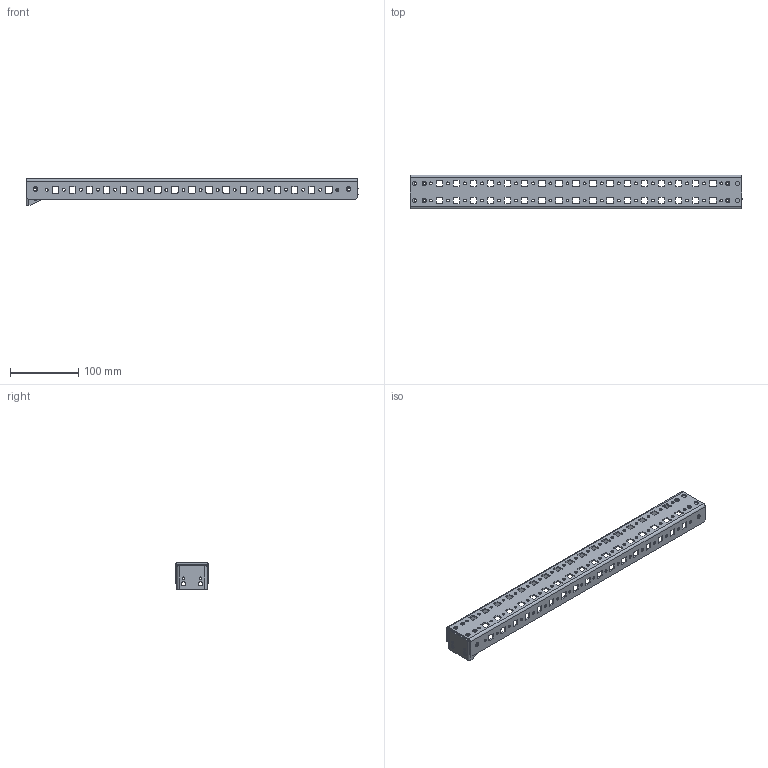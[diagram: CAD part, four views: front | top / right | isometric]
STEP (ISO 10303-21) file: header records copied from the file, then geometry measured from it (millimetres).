
FILE_DESCRIPTION(('STEP AP203'), '1');
FILE_NAME('MG 60.06 L Ðåéêà ìîíòàæíàÿ v2', '2021-05-20T09:09:55', ('UNSPECIFIED'), ('UNSPECIFIED'), 'ASCON STEP Converter 1.3', 'ASCON Math Kernel', '');
FILE_SCHEMA(('CONFIG_CONTROL_DESIGN'));
Length unit declared in the file: millimetre
Products named in the file (3): MG 60.06 L 01.001 Ðåéêà ìîíòàæíàÿ v2; MG 06 L 01.002 Êðîíøòåéí ðåéêè ìîíòàæíîé v2
Assembly tree (3 placements, depth 2):
  (unnamed)
    MG 60.06 L 01.001 Ðåéêà ìîíòàæíàÿ v2
    MG 06 L 01.002 Êðîíøòåéí ðåéêè ìîíòàæíîé v2  x2
Bounding box: 485.55 x 49.15 x 39 mm (x, y, z)
Volume: 98882.2 mm3; surface area: 110807.3 mm2
Topology: 3 solids, 3 shells, 774 faces, 2224 edges, 1456 vertices
Faces by surface type: cylinder 412, plane 354, bspline 8
Full cylindrical faces by diameter (mm): 4.2 x96, 6 x4, 6.5 x12
Entity records: 30776 total; most frequent: CARTESIAN_POINT 5010, DIRECTION 4166, ORIENTED_EDGE 3968, EDGE_CURVE 1984, AXIS2_PLACEMENT_3D 1478, VERTEX_POINT 1372, LINE 1210, VECTOR 1210
